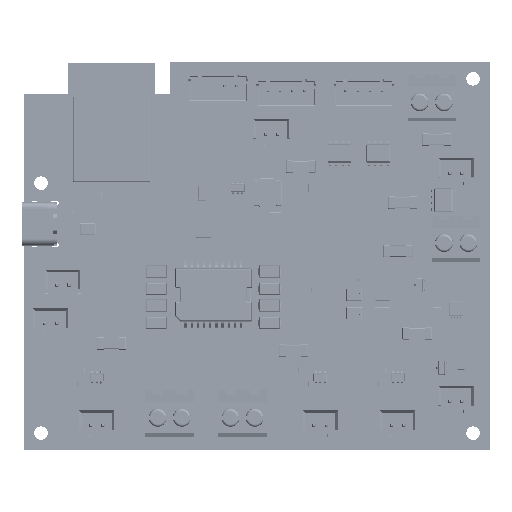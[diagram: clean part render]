
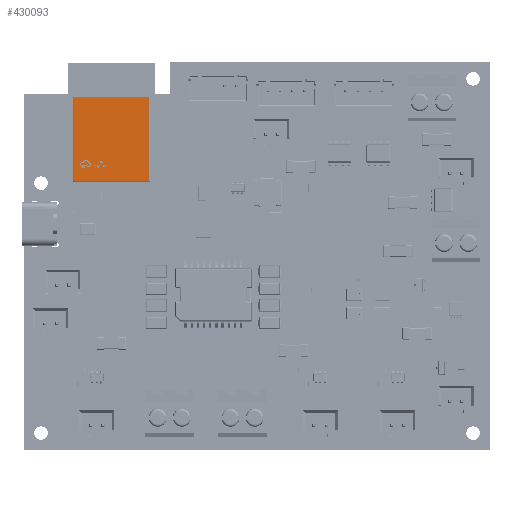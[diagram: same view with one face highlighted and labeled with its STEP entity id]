
A CAD part, top view. The second image highlights one B-rep face of the part: STEP entity #430093.
In plain terms, the highlighted planar face has unit normal (0, 0, 1).
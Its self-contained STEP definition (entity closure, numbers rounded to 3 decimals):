
#408959=CARTESIAN_POINT('NONE',(0.,-11.5,3.1));
#410584=CARTESIAN_POINT('NONE',(0.,0.,3.1));
#410819 = VERTEX_POINT('NONE',#447846) ;
#411362=CARTESIAN_POINT('NONE',(7.7,0.,3.1));
#413673 = VERTEX_POINT('NONE',#417140) ;
#415479 = VERTEX_POINT('NONE',#433153) ;
#415886=DIRECTION('NONE',(1.,0.,0.));
#416846 = EDGE_CURVE('NONE',#440412,#410819,#446585,.T.) ;
#417131 = EDGE_CURVE('NONE',#410819,#415479,#430456,.T.) ;
#417140=CARTESIAN_POINT('NONE',(-7.7,-11.5,3.1));
#417654=AXIS2_PLACEMENT_3D('NONE',#410584,#433515,#439877);
#419979 = EDGE_CURVE('NONE',#415479,#413673,#441701,.T.) ;
#424373 = ORIENTED_EDGE('NONE',*,*,#434449,.T.) ;
#425571=CARTESIAN_POINT('NONE',(-7.7,0.,3.1));
#425870 = PLANE('NONE',#417654) ;
#426306=VECTOR('NONE',#446369,1000.);
#427177 = ORIENTED_EDGE('NONE',*,*,#417131,.T.) ;
#427223=DIRECTION('NONE',(-1.,0.,0.));
#427226=CARTESIAN_POINT('NONE',(7.7,-11.5,3.1));
#430093 = ADVANCED_FACE('NONE',(#432044),#425870,.F.) ;
#430456 = LINE('NONE',#443384,#445315) ;
#432044 = FACE_OUTER_BOUND('NONE',#436813,.T.) ;
#433153=CARTESIAN_POINT('NONE',(-7.7,5.7,3.1));
#433515=DIRECTION('NONE',(0.,0.,-1.));
#433968 = ORIENTED_EDGE('NONE',*,*,#416846,.T.) ;
#434449 = EDGE_CURVE('NONE',#413673,#440412,#441625,.T.) ;
#436813 = EDGE_LOOP('NONE',(#442693,#424373,#433968,#427177)) ;
#438501=DIRECTION('NONE',(0.,-1.,0.));
#439877=DIRECTION('NONE',(-1.,0.,0.));
#440412 = VERTEX_POINT('NONE',#427226) ;
#441625 = LINE('NONE',#408959,#447770) ;
#441701 = LINE('NONE',#425571,#445511) ;
#442693 = ORIENTED_EDGE('NONE',*,*,#419979,.T.) ;
#443384=CARTESIAN_POINT('NONE',(0.,5.7,3.1));
#445315=VECTOR('NONE',#427223,1000.);
#445511=VECTOR('NONE',#438501,1000.);
#446369=DIRECTION('NONE',(0.,1.,0.));
#446585 = LINE('NONE',#411362,#426306) ;
#447770=VECTOR('NONE',#415886,1000.);
#447846=CARTESIAN_POINT('NONE',(7.7,5.7,3.1));
